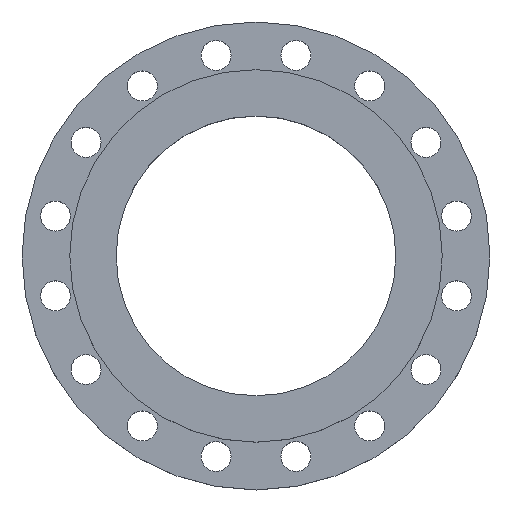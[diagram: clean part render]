
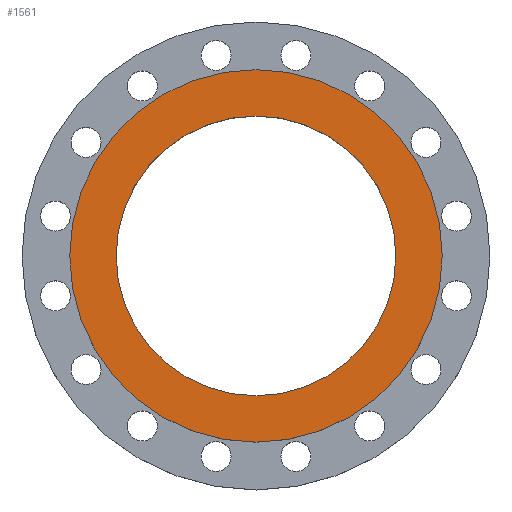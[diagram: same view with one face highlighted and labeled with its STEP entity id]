
A CAD part, top view. The second image highlights one B-rep face of the part: STEP entity #1561.
In plain terms, the highlighted planar face has unit normal (0, 0, 1).
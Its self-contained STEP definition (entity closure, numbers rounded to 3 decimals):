
#20 = CARTESIAN_POINT ( 'NONE',  ( -153.95, 0., 34. ) ) ;
#39 = CARTESIAN_POINT ( 'NONE',  ( 205., 0., 34. ) ) ;
#70 = VERTEX_POINT ( 'NONE', #39 ) ;
#92 = VERTEX_POINT ( 'NONE', #20 ) ;
#175 = FACE_BOUND ( 'NONE', #862, .T. ) ;
#270 = VERTEX_POINT ( 'NONE', #1730 ) ;
#415 = DIRECTION ( 'NONE',  ( 0., 0., 1. ) ) ;
#451 = DIRECTION ( 'NONE',  ( 1., 0., 0. ) ) ;
#481 = AXIS2_PLACEMENT_3D ( 'NONE', #1384, #1380, #1379 ) ;
#507 = VERTEX_POINT ( 'NONE', #1505 ) ;
#526 = EDGE_LOOP ( 'NONE', ( #583, #585 ) ) ;
#572 = DIRECTION ( 'NONE',  ( 0., 0., 1. ) ) ;
#583 = ORIENTED_EDGE ( 'NONE', *, *, #1636, .T. ) ;
#585 = ORIENTED_EDGE ( 'NONE', *, *, #1564, .T. ) ;
#586 = ORIENTED_EDGE ( 'NONE', *, *, #1212, .F. ) ;
#589 = ORIENTED_EDGE ( 'NONE', *, *, #652, .F. ) ;
#652 = EDGE_CURVE ( 'NONE', #92, #270, #1459, .T. ) ;
#699 = DIRECTION ( 'NONE',  ( 1., 0., 0. ) ) ;
#705 = DIRECTION ( 'NONE',  ( 0., 0., 1. ) ) ;
#708 = CARTESIAN_POINT ( 'NONE',  ( 0., 0., 34. ) ) ;
#747 = PLANE ( 'NONE',  #928 ) ;
#862 = EDGE_LOOP ( 'NONE', ( #586, #589 ) ) ;
#928 = AXIS2_PLACEMENT_3D ( 'NONE', #1452, #572, #1728 ) ;
#940 = CIRCLE ( 'NONE', #1010, 205. ) ;
#1010 = AXIS2_PLACEMENT_3D ( 'NONE', #1551, #415, #1641 ) ;
#1103 = AXIS2_PLACEMENT_3D ( 'NONE', #708, #705, #699 ) ;
#1212 = EDGE_CURVE ( 'NONE', #270, #92, #1213, .T. ) ;
#1213 = CIRCLE ( 'NONE', #1103, 153.95 ) ;
#1245 = CIRCLE ( 'NONE', #1535, 205. ) ;
#1379 = DIRECTION ( 'NONE',  ( 1., 0., 0. ) ) ;
#1380 = DIRECTION ( 'NONE',  ( 0., 0., 1. ) ) ;
#1384 = CARTESIAN_POINT ( 'NONE',  ( 0., 0., 34. ) ) ;
#1452 = CARTESIAN_POINT ( 'NONE',  ( 153.95, 0., 34. ) ) ;
#1459 = CIRCLE ( 'NONE', #481, 153.95 ) ;
#1505 = CARTESIAN_POINT ( 'NONE',  ( -205., 0., 34. ) ) ;
#1535 = AXIS2_PLACEMENT_3D ( 'NONE', #1657, #1747, #451 ) ;
#1551 = CARTESIAN_POINT ( 'NONE',  ( 0., 0., 34. ) ) ;
#1561 = ADVANCED_FACE ( 'NONE', ( #1794, #175 ), #747, .T. ) ;
#1564 = EDGE_CURVE ( 'NONE', #507, #70, #940, .T. ) ;
#1636 = EDGE_CURVE ( 'NONE', #70, #507, #1245, .T. ) ;
#1641 = DIRECTION ( 'NONE',  ( 1., 0., 0. ) ) ;
#1657 = CARTESIAN_POINT ( 'NONE',  ( 0., 0., 34. ) ) ;
#1728 = DIRECTION ( 'NONE',  ( 1., 0., 0. ) ) ;
#1730 = CARTESIAN_POINT ( 'NONE',  ( 153.95, 0., 34. ) ) ;
#1747 = DIRECTION ( 'NONE',  ( 0., 0., 1. ) ) ;
#1794 = FACE_OUTER_BOUND ( 'NONE', #526, .T. ) ;
